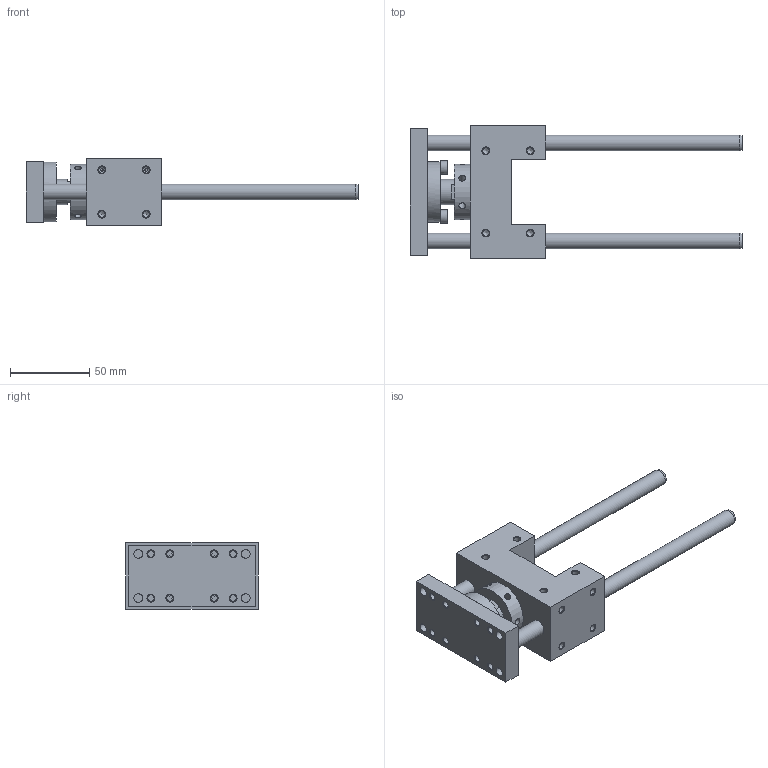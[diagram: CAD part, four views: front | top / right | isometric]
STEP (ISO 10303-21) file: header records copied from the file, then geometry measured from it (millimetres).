
FILE_DESCRIPTION( ( 'STEP AP214' ), '1' );
FILE_NAME( 'U:/Etudes/Top Solid/BIBLIO 3D AVM/TOP/PNEUMATIQUE/GUIDAGES/Type 34 (en U)/_Légère/3432110.step', '2005-05-27T12:16:41', ( ' ' ), ( ' ' ), 'XStep 1.0', ' ', ' ' );
FILE_SCHEMA( ( 'automotive_design' ) );
Length unit declared in the file: metre
Products named in the file (2): 1; 2
Bounding box: 210 x 84 x 42 mm (x, y, z)
Volume: 190308.8 mm3; surface area: 54614.1 mm2
Topology: 2 solids, 5 shells, 176 faces, 458 edges, 295 vertices
Faces by surface type: cylinder 69, plane 57, cone 50
Full cylindrical faces by diameter (mm): 4.134 x36, 4.2 x6, 5 x4, 5.5 x6, 8.5 x2, 8.647 x2, 10 x4, 16 x1, 18 x1, 20.376 x2, 22.8 x1, 25 x2, 35 x1, 38 x1
Entity records: 6505 total; most frequent: CARTESIAN_POINT 1502, DIRECTION 764, ORIENTED_EDGE 526, EDGE_LOOP 356, AXIS2_PLACEMENT_3D 341, EDGE_CURVE 263, FACE_OUTER_BOUND 245, VERTEX_POINT 231
